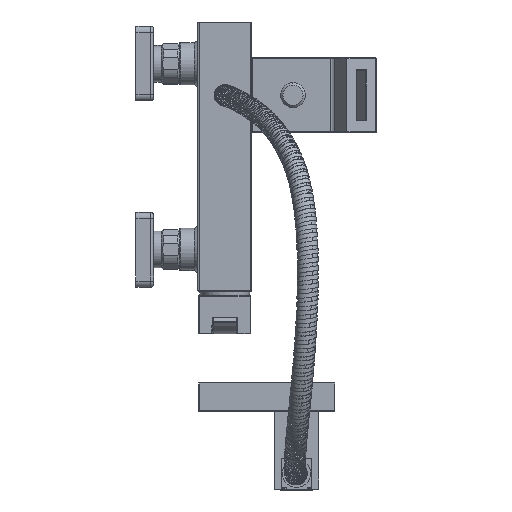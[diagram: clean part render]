
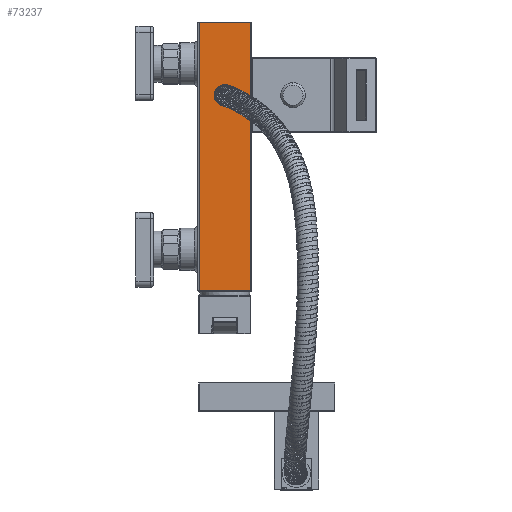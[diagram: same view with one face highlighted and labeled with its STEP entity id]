
A CAD part, front view. The second image highlights one B-rep face of the part: STEP entity #73237.
In plain terms, the highlighted planar face has unit normal (0, -1, 0).
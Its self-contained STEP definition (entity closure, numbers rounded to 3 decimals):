
#3480 = CARTESIAN_POINT ( 'NONE',  ( 20.75, 64.25, -0.5 ) ) ;
#5716 = LINE ( 'NONE', #15927, #62938 ) ;
#6464 = CARTESIAN_POINT ( 'NONE',  ( -20.75, 64.25, -0.5 ) ) ;
#15927 = CARTESIAN_POINT ( 'NONE',  ( 20.75, 64.25, -216.5 ) ) ;
#17575 = DIRECTION ( 'NONE',  ( 1., 0., 0. ) ) ;
#34036 = DIRECTION ( 'NONE',  ( 0., 0., 1. ) ) ;
#38664 = DIRECTION ( 'NONE',  ( 0., 0., -1. ) ) ;
#46548 = VERTEX_POINT ( 'NONE', #147739 ) ;
#49690 = CARTESIAN_POINT ( 'NONE',  ( 20.75, 64.25, -217. ) ) ;
#52097 = LINE ( 'NONE', #105306, #78095 ) ;
#52142 = ORIENTED_EDGE ( 'NONE', *, *, #64057, .T. ) ;
#62938 = VECTOR ( 'NONE', #17575, 1000. ) ;
#64027 = FACE_OUTER_BOUND ( 'NONE', #90591, .T. ) ;
#64057 = EDGE_CURVE ( 'NONE', #94120, #146884, #110964, .T. ) ;
#73237 = ADVANCED_FACE ( 'NONE', ( #64027 ), #102059, .T. ) ;
#78095 = VECTOR ( 'NONE', #92619, 1000. ) ;
#79955 = VERTEX_POINT ( 'NONE', #6464 ) ;
#85337 = AXIS2_PLACEMENT_3D ( 'NONE', #49690, #88553, #38664 ) ;
#86758 = EDGE_CURVE ( 'NONE', #146884, #79955, #52097, .T. ) ;
#88553 = DIRECTION ( 'NONE',  ( 0., -1., 0. ) ) ;
#90591 = EDGE_LOOP ( 'NONE', ( #52142, #122812, #136062, #154649 ) ) ;
#92619 = DIRECTION ( 'NONE',  ( -1., 0., 0. ) ) ;
#94120 = VERTEX_POINT ( 'NONE', #148113 ) ;
#102059 = PLANE ( 'NONE',  #85337 ) ;
#105306 = CARTESIAN_POINT ( 'NONE',  ( 20.75, 64.25, -0.5 ) ) ;
#110964 = LINE ( 'NONE', #138834, #166744 ) ;
#114090 = VECTOR ( 'NONE', #167039, 1000. ) ;
#117587 = EDGE_CURVE ( 'NONE', #46548, #79955, #166210, .T. ) ;
#120679 = EDGE_CURVE ( 'NONE', #46548, #94120, #5716, .T. ) ;
#122812 = ORIENTED_EDGE ( 'NONE', *, *, #86758, .T. ) ;
#136062 = ORIENTED_EDGE ( 'NONE', *, *, #117587, .F. ) ;
#138834 = CARTESIAN_POINT ( 'NONE',  ( 20.75, 64.25, -217. ) ) ;
#146884 = VERTEX_POINT ( 'NONE', #3480 ) ;
#147739 = CARTESIAN_POINT ( 'NONE',  ( -20.75, 64.25, -216.5 ) ) ;
#148113 = CARTESIAN_POINT ( 'NONE',  ( 20.75, 64.25, -216.5 ) ) ;
#152693 = CARTESIAN_POINT ( 'NONE',  ( -20.75, 64.25, -217. ) ) ;
#154649 = ORIENTED_EDGE ( 'NONE', *, *, #120679, .T. ) ;
#166210 = LINE ( 'NONE', #152693, #114090 ) ;
#166744 = VECTOR ( 'NONE', #34036, 1000. ) ;
#167039 = DIRECTION ( 'NONE',  ( 0., 0., 1. ) ) ;
